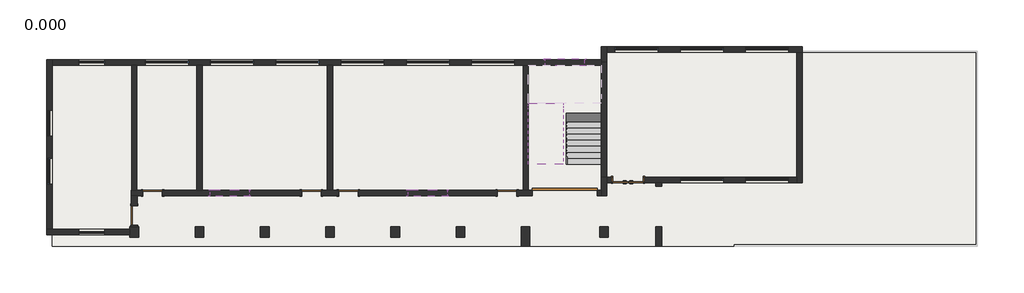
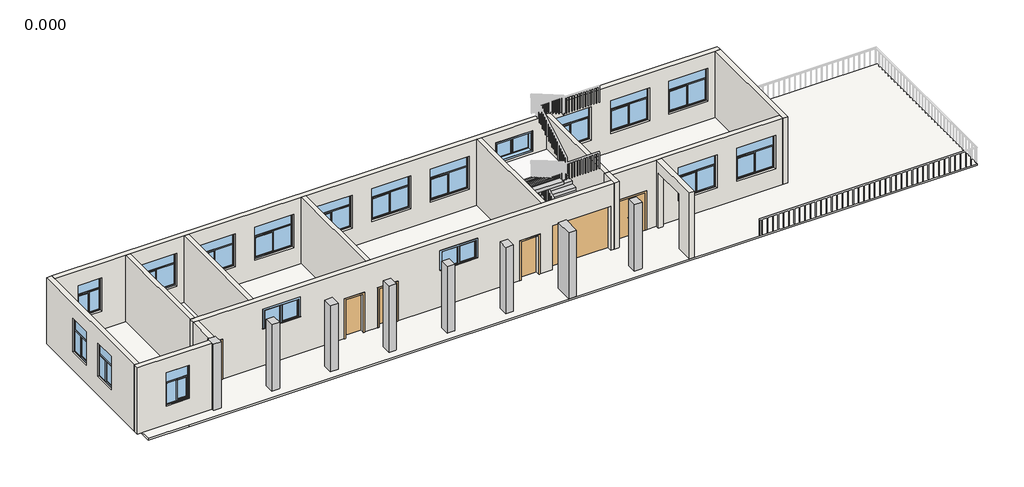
# One storey, part 1 of 3: 18 windows, 16 walls, 8 columns, 7 doors, 2 stair flights, 1 slab.
"""IFC4 building model written with IfcOpenShell, lengths in millimetres."""

from ifc_helpers import new_model, si_unit, frame, origin, origin_with_axes, place, context, project, spatial, polyline, outline, extrude, faceted_brep, transform, mapped, element, save
from components import column_400x500mm_c44cc8ed, column_400x900mm_74237744, m1_f3cb3123, m1_ab81c9c2, m2_54796214, m3_c4b16c2e, c1_54542c8d, c2_93fe3833, c3_c6347dd0

model = new_model("IFC4")

# Units and contexts
model_context = context("Model", 3, world=origin())
ifc_project = project(units=[si_unit("LENGTHUNIT", "METRE", prefix="MILLI")], contexts=[model_context])

# Site, building, storey
site = spatial("IfcSite", under=ifc_project)
building = spatial("IfcBuilding", under=site)
storey = spatial("IfcBuildingStorey", under=building, Name="0.000", Elevation=0.0)

# Columns
placement = place(None, origin())
element("IfcColumn", 1, ObjectType="混凝土 - 矩形 - 柱 : 400X500mm", at=placement, inside=storey, context=model_context, shape_type="Brep", body=[
    faceted_brep([(-19259.1214542, -25688.2373497, 0.0), (-19259.1214542, -26188.2373497, 0.0), (-19659.1214542, -26188.2373497, 0.0), (-19659.1214542, -26068.2373497, 0.0), (-19659.1214542, -25808.2373497, 0.0), (-19659.1214542, -25688.2373497, 0.0), (-19589.1214542, -25688.2373497, 0.0), (-19329.1214542, -25688.2373497, 0.0), (-19259.1214542, -25688.2373497, 3600.0), (-19259.1214542, -26188.2373497, 3600.0), (-19659.1214542, -26188.2373497, 3600.0), (-19659.1214542, -26068.2373497, 3600.0), (-19659.1214542, -25808.2373497, 3600.0), (-19659.1214542, -25688.2373497, 3600.0), (-19589.1214542, -25688.2373497, 3600.0), (-19329.1214542, -25688.2373497, 3600.0)], [[[0, 1, 2, 3, 4, 5, 6, 7]], [[8, 9, 1, 0]], [[9, 10, 2, 1]], [[10, 11, 12, 13, 5, 4, 3, 2]], [[13, 14, 15, 8, 0, 7, 6, 5]], [[8, 15, 14, 13, 12, 11, 10, 9]]]),
])
column_400x500mm_shape = column_400x500mm_c44cc8ed(model_context)
element("IfcColumn", 2, ObjectType="混凝土 - 矩形 - 柱 : 400X500mm", at=placement, inside=storey, context=model_context, shape_type="MappedRepresentation", body=[
    mapped(column_400x500mm_shape, transform((-16459.1214542, -25938.2373497, 0.0), x_axis=(1.0, 0.0, 0.0), y_axis=(0.0, 1.0, 0.0), z_axis=(0.0, 0.0, 1.0))),
])
element("IfcColumn", 3, ObjectType="混凝土 - 矩形 - 柱 : 400X500mm", at=placement, inside=storey, context=model_context, shape_type="MappedRepresentation", body=[
    mapped(column_400x500mm_shape, transform((-13459.1214542, -25938.2373497, 0.0), x_axis=(1.0, 0.0, 0.0), y_axis=(0.0, 1.0, 0.0), z_axis=(0.0, 0.0, 1.0))),
])
element("IfcColumn", 4, ObjectType="混凝土 - 矩形 - 柱 : 400X500mm", at=placement, inside=storey, context=model_context, shape_type="MappedRepresentation", body=[
    mapped(column_400x500mm_shape, transform((-10459.1214542, -25938.2373497, 0.0), x_axis=(1.0, 0.0, 0.0), y_axis=(0.0, 1.0, 0.0), z_axis=(0.0, 0.0, 1.0))),
])
element("IfcColumn", 5, ObjectType="混凝土 - 矩形 - 柱 : 400X500mm", at=placement, inside=storey, context=model_context, shape_type="MappedRepresentation", body=[
    mapped(column_400x500mm_shape, transform((-7459.1214542, -25938.2373497, 0.0), x_axis=(1.0, 0.0, 0.0), y_axis=(0.0, 1.0, 0.0), z_axis=(0.0, 0.0, 1.0))),
])
element("IfcColumn", 6, ObjectType="混凝土 - 矩形 - 柱 : 400X500mm", at=placement, inside=storey, context=model_context, shape_type="MappedRepresentation", body=[
    mapped(column_400x500mm_shape, transform((-4459.1214542, -25938.2373497, 0.0), x_axis=(1.0, 0.0, 0.0), y_axis=(0.0, 1.0, 0.0), z_axis=(0.0, 0.0, 1.0))),
])
element("IfcColumn", 7, ObjectType="混凝土 - 矩形 - 柱 : 400X500mm", at=placement, inside=storey, context=model_context, shape_type="MappedRepresentation", body=[
    mapped(column_400x500mm_shape, transform((2140.8785458, -25938.2373497, 0.0), x_axis=(1.0, 0.0, 0.0), y_axis=(0.0, 1.0, 0.0), z_axis=(0.0, 0.0, 1.0))),
])
column_400x900mm_shape = column_400x900mm_74237744(model_context)
element("IfcColumn", 8, ObjectType="混凝土 - 矩形 - 柱 : 400X900mm", at=placement, inside=storey, context=model_context, shape_type="MappedRepresentation", body=[
    mapped(column_400x900mm_shape, transform((-1459.1214542, -26138.2373497, 0.0), x_axis=(1.0, 0.0, 0.0), y_axis=(0.0, 1.0, 0.0), z_axis=(0.0, 0.0, 1.0))),
])

# Doors
m1_shape = m1_f3cb3123(model_context)
element("IfcDoor", 9, ObjectType="单扇 - 与墙齐 : M1", at=placement, inside=storey, context=model_context, shape_type="MappedRepresentation", body=[
    mapped(m1_shape, transform((-18609.1214542, -24138.2373497, 0.0), x_axis=(-1.0, 0.0, 0.0), y_axis=(0.0, -1.0, 0.0), z_axis=(0.0, 0.0, 1.0))),
])
element("IfcDoor", 10, ObjectType="单扇 - 与墙齐 : M1", at=placement, inside=storey, context=model_context, shape_type="MappedRepresentation", body=[
    mapped(m1_shape, transform((-9609.1214542, -24138.2373497, 0.0), x_axis=(-1.0, 0.0, 0.0), y_axis=(0.0, -1.0, 0.0), z_axis=(0.0, 0.0, 1.0))),
])
element("IfcDoor", 11, ObjectType="单扇 - 与墙齐 : M1", at=placement, inside=storey, context=model_context, shape_type="MappedRepresentation", body=[
    mapped(m1_shape, transform((-19459.1214542, -25168.2373497, 0.0), x_axis=(0.0, -1.0, 0.0), y_axis=(1.0, 0.0, 0.0), z_axis=(0.0, 0.0, 1.0))),
])
m1_2_shape = m1_ab81c9c2(model_context)
element("IfcDoor", 12, ObjectType="单扇 - 与墙齐 : M1", at=placement, inside=storey, context=model_context, shape_type="MappedRepresentation", body=[
    mapped(m1_2_shape, transform((-11309.1214542, -24138.2373497, 0.0), x_axis=(1.0, 0.0, 0.0), y_axis=(0.0, 1.0, 0.0), z_axis=(0.0, 0.0, 1.0))),
])
element("IfcDoor", 13, ObjectType="单扇 - 与墙齐 : M1", at=placement, inside=storey, context=model_context, shape_type="MappedRepresentation", body=[
    mapped(m1_2_shape, transform((-2309.1214542, -24138.2373497, 0.0), x_axis=(1.0, 0.0, 0.0), y_axis=(0.0, 1.0, 0.0), z_axis=(0.0, 0.0, 1.0))),
])
m2_shape = m2_54796214(model_context)
element("IfcDoor", 14, ObjectType="双面嵌板木门 1 : M2", at=placement, inside=storey, context=model_context, shape_type="MappedRepresentation", body=[
    mapped(m2_shape, transform((3250.8785458, -23538.2373497, 0.0), x_axis=(-1.0, 0.0, 0.0), y_axis=(0.0, -1.0, 0.0), z_axis=(0.0, 0.0, 1.0))),
])
m3_shape = m3_c4b16c2e(model_context)
element("IfcDoor", 15, ObjectType="滑升门 : M3", at=placement, inside=storey, context=model_context, shape_type="MappedRepresentation", body=[
    mapped(m3_shape, transform((340.8785458, -24138.2373497, 0.0), x_axis=(-1.0, 0.0, 0.0), y_axis=(0.0, -1.0, 0.0), z_axis=(0.0, 0.0, 1.0))),
])

# Slab
element("IfcSlab", 16, ObjectType="室内楼板", at=placement, inside=storey, context=model_context, shape_type="SweptSolid", body=[
    extrude(outline(polyline([(2020.8785458, -18268.2373497), (2270.8785458, -18268.2373497), (2270.8785458, -17668.2373497), (19315.8785458, -17668.2373497), (19315.8785458, -26588.2373497), (-21129.1214542, -26588.2373497), (-23229.1214542, -26588.2373497), (-23229.1214542, -25808.2373497), (-23229.1214542, -18268.2373497), (2020.8785458, -18268.2373497)])), frame((0.0, 0.0, -100.0), z_axis=(0.0, 0.0, 1.0), x_axis=(1.0, 0.0, 0.0)), (0.0, 0.0, 1.0), 100.0),
])

# Stair flights
element("IfcStairFlight", 17, ObjectType="150mm 结构深度", at=placement, inside=storey, context=model_context, shape_type="Brep", body=[
    faceted_brep([(405.8785458, -22538.2373497, 163.6363636), (405.8785458, -22818.2373497, 163.6363636), (2020.8785458, -22818.2373497, 163.6363636), (2020.8785458, -22538.2373497, 163.6363636), (405.8785458, -22538.2373497, 0.0), (405.8785458, -22818.2373497, 0.0), (2020.8785458, -22818.2373497, 0.0), (2020.8785458, -22538.2373497, 0.0), (405.8785458, -22258.2373497, 327.2727273), (405.8785458, -22538.2373497, 327.2727273), (2020.8785458, -22538.2373497, 327.2727273), (2020.8785458, -22258.2373497, 327.2727273), (405.8785458, -22258.2373497, 153.5353236), (405.8785458, -22520.9533478, 0.0), (2020.8785458, -22520.9533478, 0.0), (2020.8785458, -22258.2373497, 153.5353236), (405.8785458, -21978.2373497, 490.9090909), (405.8785458, -22258.2373497, 490.9090909), (2020.8785458, -22258.2373497, 490.9090909), (2020.8785458, -21978.2373497, 490.9090909), (405.8785458, -21978.2373497, 317.1716872), (2020.8785458, -21978.2373497, 317.1716872), (405.8785458, -21698.2373497, 654.5454545), (405.8785458, -21978.2373497, 654.5454545), (2020.8785458, -21978.2373497, 654.5454545), (2020.8785458, -21698.2373497, 654.5454545), (405.8785458, -21698.2373497, 480.8080508), (2020.8785458, -21698.2373497, 480.8080508), (405.8785458, -21418.2373497, 818.1818182), (405.8785458, -21698.2373497, 818.1818182), (2020.8785458, -21698.2373497, 818.1818182), (2020.8785458, -21418.2373497, 818.1818182), (405.8785458, -21418.2373497, 644.4444145), (2020.8785458, -21418.2373497, 644.4444145), (405.8785458, -21138.2373497, 981.8181818), (405.8785458, -21418.2373497, 981.8181818), (2020.8785458, -21418.2373497, 981.8181818), (2020.8785458, -21138.2373497, 981.8181818), (405.8785458, -21138.2373497, 808.0807781), (2020.8785458, -21138.2373497, 808.0807781), (405.8785458, -20858.2373497, 1145.4545455), (405.8785458, -21138.2373497, 1145.4545455), (2020.8785458, -21138.2373497, 1145.4545455), (2020.8785458, -20858.2373497, 1145.4545455), (405.8785458, -20858.2373497, 971.7171418), (2020.8785458, -20858.2373497, 971.7171418), (405.8785458, -20578.2373497, 1309.0909091), (405.8785458, -20858.2373497, 1309.0909091), (2020.8785458, -20858.2373497, 1309.0909091), (2020.8785458, -20578.2373497, 1309.0909091), (405.8785458, -20578.2373497, 1135.3535054), (2020.8785458, -20578.2373497, 1135.3535054), (405.8785458, -20298.2373497, 1472.7272727), (405.8785458, -20578.2373497, 1472.7272727), (2020.8785458, -20578.2373497, 1472.7272727), (2020.8785458, -20298.2373497, 1472.7272727), (405.8785458, -20298.2373497, 1298.989869), (2020.8785458, -20298.2373497, 1298.989869), (405.8785458, -20018.2373497, 1636.3636364), (405.8785458, -20298.2373497, 1636.3636364), (2020.8785458, -20298.2373497, 1636.3636364), (2020.8785458, -20018.2373497, 1636.3636364), (405.8785458, -20018.2373497, 1462.6262327), (2020.8785458, -20018.2373497, 1462.6262327)], [[[0, 1, 2, 3]], [[1, 0, 4, 5]], [[2, 1, 5, 6]], [[3, 2, 6, 7]], [[8, 9, 10, 11]], [[4, 0, 9, 8, 12, 13]], [[0, 3, 10, 9]], [[3, 7, 14, 15, 11, 10]], [[16, 17, 18, 19]], [[17, 16, 20, 12, 8]], [[8, 11, 18, 17]], [[19, 18, 11, 15, 21]], [[22, 23, 24, 25]], [[23, 22, 26, 20, 16]], [[16, 19, 24, 23]], [[25, 24, 19, 21, 27]], [[28, 29, 30, 31]], [[29, 28, 32, 26, 22]], [[22, 25, 30, 29]], [[31, 30, 25, 27, 33]], [[34, 35, 36, 37]], [[35, 34, 38, 32, 28]], [[28, 31, 36, 35]], [[37, 36, 31, 33, 39]], [[40, 41, 42, 43]], [[41, 40, 44, 38, 34]], [[34, 37, 42, 41]], [[43, 42, 37, 39, 45]], [[46, 47, 48, 49]], [[47, 46, 50, 44, 40]], [[40, 43, 48, 47]], [[49, 48, 43, 45, 51]], [[52, 53, 54, 55]], [[53, 52, 56, 50, 46]], [[46, 49, 54, 53]], [[55, 54, 49, 51, 57]], [[58, 59, 60, 61]], [[59, 58, 62, 56, 52]], [[52, 55, 60, 59]], [[61, 60, 55, 57, 63]], [[58, 61, 63, 62]], [[5, 4, 13, 14, 7, 6]], [[14, 13, 12, 20, 26, 32, 38, 44, 50, 56, 62, 63, 57, 51, 45, 39, 33, 27, 21, 15]]]),
])
element("IfcStairFlight", 18, ObjectType="150mm 结构深度", at=placement, inside=storey, context=model_context, shape_type="Brep", body=[
    faceted_brep([(275.8785458, -20018.2373497, 1963.6363636), (-1339.1214542, -20018.2373497, 1963.6363636), (-1339.1214542, -20144.4102404, 1963.6363636), (-1339.1214542, -20298.2373497, 1963.6363636), (275.8785458, -20298.2373497, 1963.6363636), (275.8785458, -20144.4102404, 1963.6363636), (275.8785458, -20298.2373497, 1789.8989599), (275.8785458, -20144.4102404, 1700.0), (275.8785458, -20018.2373497, 1700.0), (-1339.1214542, -20018.2373497, 1700.0), (-1339.1214542, -20018.2373497, 1800.0), (-1339.1214542, -20144.4102404, 1700.0), (-1339.1214542, -20298.2373497, 1789.8989599), (275.8785458, -20578.2373497, 2127.2727273), (275.8785458, -20298.2373497, 2127.2727273), (-1339.1214542, -20298.2373497, 2127.2727273), (-1339.1214542, -20578.2373497, 2127.2727273), (275.8785458, -20578.2373497, 1953.5353236), (-1339.1214542, -20578.2373497, 1953.5353236), (275.8785458, -20858.2373497, 2290.9090909), (275.8785458, -20578.2373497, 2290.9090909), (-1339.1214542, -20578.2373497, 2290.9090909), (-1339.1214542, -20858.2373497, 2290.9090909), (275.8785458, -20858.2373497, 2117.1716872), (-1339.1214542, -20858.2373497, 2117.1716872), (275.8785458, -21138.2373497, 2454.5454545), (275.8785458, -20858.2373497, 2454.5454545), (-1339.1214542, -20858.2373497, 2454.5454545), (-1339.1214542, -21138.2373497, 2454.5454545), (275.8785458, -21138.2373497, 2280.8080508), (-1339.1214542, -21138.2373497, 2280.8080508), (275.8785458, -21418.2373497, 2618.1818182), (275.8785458, -21138.2373497, 2618.1818182), (-1339.1214542, -21138.2373497, 2618.1818182), (-1339.1214542, -21418.2373497, 2618.1818182), (275.8785458, -21418.2373497, 2444.4444145), (-1339.1214542, -21418.2373497, 2444.4444145), (275.8785458, -21698.2373497, 2781.8181818), (275.8785458, -21418.2373497, 2781.8181818), (-1339.1214542, -21418.2373497, 2781.8181818), (-1339.1214542, -21698.2373497, 2781.8181818), (275.8785458, -21698.2373497, 2608.0807781), (-1339.1214542, -21698.2373497, 2608.0807781), (275.8785458, -21978.2373497, 2945.4545455), (275.8785458, -21698.2373497, 2945.4545455), (-1339.1214542, -21698.2373497, 2945.4545455), (-1339.1214542, -21978.2373497, 2945.4545455), (275.8785458, -21978.2373497, 2771.7171418), (-1339.1214542, -21978.2373497, 2771.7171418), (275.8785458, -22258.2373497, 3109.0909091), (275.8785458, -21978.2373497, 3109.0909091), (-1339.1214542, -21978.2373497, 3109.0909091), (-1339.1214542, -22258.2373497, 3109.0909091), (275.8785458, -22258.2373497, 2935.3535054), (-1339.1214542, -22258.2373497, 2935.3535054), (275.8785458, -22538.2373497, 3272.7272727), (275.8785458, -22258.2373497, 3272.7272727), (-1339.1214542, -22258.2373497, 3272.7272727), (-1339.1214542, -22538.2373497, 3272.7272727), (275.8785458, -22538.2373497, 3098.989869), (-1339.1214542, -22538.2373497, 3098.989869), (275.8785458, -22818.2373497, 3436.3636364), (275.8785458, -22538.2373497, 3436.3636364), (-1339.1214542, -22538.2373497, 3436.3636364), (-1339.1214542, -22818.2373497, 3436.3636364), (275.8785458, -22818.2373497, 3262.6262327), (-1339.1214542, -22818.2373497, 3262.6262327)], [[[0, 1, 2, 3, 4, 5]], [[4, 6, 7, 8, 0, 5]], [[1, 0, 8, 9, 10]], [[1, 10, 9, 11, 12, 3, 2]], [[13, 14, 15, 16]], [[14, 13, 17, 6, 4]], [[15, 14, 4, 3]], [[16, 15, 3, 12, 18]], [[19, 20, 21, 22]], [[20, 19, 23, 17, 13]], [[21, 20, 13, 16]], [[22, 21, 16, 18, 24]], [[25, 26, 27, 28]], [[26, 25, 29, 23, 19]], [[27, 26, 19, 22]], [[28, 27, 22, 24, 30]], [[31, 32, 33, 34]], [[32, 31, 35, 29, 25]], [[33, 32, 25, 28]], [[34, 33, 28, 30, 36]], [[37, 38, 39, 40]], [[38, 37, 41, 35, 31]], [[39, 38, 31, 34]], [[40, 39, 34, 36, 42]], [[43, 44, 45, 46]], [[44, 43, 47, 41, 37]], [[45, 44, 37, 40]], [[46, 45, 40, 42, 48]], [[49, 50, 51, 52]], [[50, 49, 53, 47, 43]], [[51, 50, 43, 46]], [[52, 51, 46, 48, 54]], [[55, 56, 57, 58]], [[56, 55, 59, 53, 49]], [[57, 56, 49, 52]], [[58, 57, 52, 54, 60]], [[61, 62, 63, 64]], [[62, 61, 65, 59, 55]], [[63, 62, 55, 58]], [[64, 63, 58, 60, 66]], [[61, 64, 66, 65]], [[11, 7, 6, 17, 23, 29, 35, 41, 47, 53, 59, 65, 66, 60, 54, 48, 42, 36, 30, 24, 18, 12]], [[7, 11, 9, 8]]]),
])

# Walls
element("IfcWall", 19, ObjectType="外墙", at=placement, inside=storey, context=model_context, shape_type="Brep", body=[
    faceted_brep([(-23489.1214542, -25808.2373497, 0.0), (-23489.1214542, -25808.2373497, 3600.0), (-23229.1214542, -25808.2373497, 3600.0), (-19659.1214542, -25808.2373497, 3600.0), (-19659.1214542, -25808.2373497, 0.0), (-23229.1214542, -25808.2373497, 0.0), (-20809.1214542, -25808.2373497, 1000.0), (-20809.1214542, -25808.2373497, 2800.0), (-22009.1214542, -25808.2373497, 2800.0), (-22009.1214542, -25808.2373497, 1000.0), (-23489.1214542, -26068.2373497, 3600.0), (-23489.1214542, -26068.2373497, 0.0), (-19659.1214542, -26068.2373497, 0.0), (-19659.1214542, -26068.2373497, 3600.0), (-20809.1214542, -26068.2373497, 2800.0), (-20809.1214542, -26068.2373497, 1000.0), (-22009.1214542, -26068.2373497, 1000.0), (-22009.1214542, -26068.2373497, 2800.0)], [[[0, 1, 2, 3, 4, 5], [6, 7, 8, 9]], [[10, 11, 12, 13], [14, 15, 16, 17]], [[11, 0, 5, 4, 12]], [[1, 10, 13, 3, 2]], [[1, 0, 11, 10]], [[4, 3, 13, 12]], [[7, 6, 15, 14]], [[8, 7, 14, 17]], [[9, 8, 17, 16]], [[6, 9, 16, 15]]]),
])
element("IfcWall", 20, ObjectType="外墙", at=placement, inside=storey, context=model_context, shape_type="Brep", body=[
    faceted_brep([(-23229.1214542, -25808.2373497, 0.0), (-23229.1214542, -18268.2373497, 0.0), (-23229.1214542, -18008.2373497, 0.0), (-23229.1214542, -18008.2373497, 3600.0), (-23229.1214542, -18268.2373497, 3600.0), (-23229.1214542, -25808.2373497, 3600.0), (-23229.1214542, -21538.2373497, 1000.0), (-23229.1214542, -21538.2373497, 2800.0), (-23229.1214542, -20338.2373497, 2800.0), (-23229.1214542, -20338.2373497, 1000.0), (-23229.1214542, -23738.2373497, 1000.0), (-23229.1214542, -23738.2373497, 2800.0), (-23229.1214542, -22538.2373497, 2800.0), (-23229.1214542, -22538.2373497, 1000.0), (-23489.1214542, -25808.2373497, 0.0), (-23489.1214542, -25808.2373497, 3600.0), (-23489.1214542, -18008.2373497, 3600.0), (-23489.1214542, -18008.2373497, 0.0), (-23489.1214542, -21538.2373497, 1000.0), (-23489.1214542, -20338.2373497, 1000.0), (-23489.1214542, -20338.2373497, 2800.0), (-23489.1214542, -21538.2373497, 2800.0), (-23489.1214542, -23738.2373497, 1000.0), (-23489.1214542, -22538.2373497, 1000.0), (-23489.1214542, -22538.2373497, 2800.0), (-23489.1214542, -23738.2373497, 2800.0)], [[[0, 1, 2, 3, 4, 5], [6, 7, 8, 9], [10, 11, 12, 13]], [[14, 15, 16, 17], [18, 19, 20, 21], [22, 23, 24, 25]], [[2, 1, 0, 14, 17]], [[5, 4, 3, 16, 15]], [[0, 5, 15, 14]], [[3, 2, 17, 16]], [[7, 6, 18, 21]], [[8, 7, 21, 20]], [[9, 8, 20, 19]], [[6, 9, 19, 18]], [[11, 10, 22, 25]], [[12, 11, 25, 24]], [[13, 12, 24, 23]], [[10, 13, 23, 22]]]),
])
element("IfcWall", 21, ObjectType="外墙", at=placement, inside=storey, context=model_context, shape_type="Brep", body=[
    faceted_brep([(-23229.1214542, -18268.2373497, 0.0), (-19579.1214542, -18268.2373497, 0.0), (-19339.1214542, -18268.2373497, 0.0), (-16579.1214542, -18268.2373497, 0.0), (-16339.1214542, -18268.2373497, 0.0), (-10579.1214542, -18268.2373497, 0.0), (-10339.1214542, -18268.2373497, 0.0), (-1579.1214542, -18268.2373497, 0.0), (-1339.1214542, -18268.2373497, 0.0), (2020.8785458, -18268.2373497, 0.0), (2020.8785458, -18268.2373497, 3600.0), (-1339.1214542, -18268.2373497, 3600.0), (-1579.1214542, -18268.2373497, 3600.0), (-10339.1214542, -18268.2373497, 3600.0), (-10579.1214542, -18268.2373497, 3600.0), (-16339.1214542, -18268.2373497, 3600.0), (-16579.1214542, -18268.2373497, 3600.0), (-19339.1214542, -18268.2373497, 3600.0), (-19579.1214542, -18268.2373497, 3600.0), (-23229.1214542, -18268.2373497, 3600.0), (-22009.1214542, -18268.2373497, 1000.0), (-22009.1214542, -18268.2373497, 2800.0), (-20809.1214542, -18268.2373497, 2800.0), (-20809.1214542, -18268.2373497, 1000.0), (-18959.1214542, -18268.2373497, 1000.0), (-18959.1214542, -18268.2373497, 2800.0), (-16959.1214542, -18268.2373497, 2800.0), (-16959.1214542, -18268.2373497, 1000.0), (-15959.1214542, -18268.2373497, 1000.0), (-15959.1214542, -18268.2373497, 2800.0), (-13959.1214542, -18268.2373497, 2800.0), (-13959.1214542, -18268.2373497, 1000.0), (-12959.1214542, -18268.2373497, 1000.0), (-12959.1214542, -18268.2373497, 2800.0), (-10959.1214542, -18268.2373497, 2800.0), (-10959.1214542, -18268.2373497, 1000.0), (-9959.1214542, -18268.2373497, 1000.0), (-9959.1214542, -18268.2373497, 2800.0), (-7959.1214542, -18268.2373497, 2800.0), (-7959.1214542, -18268.2373497, 1000.0), (-6959.1214542, -18268.2373497, 1000.0), (-6959.1214542, -18268.2373497, 2800.0), (-4959.1214542, -18268.2373497, 2800.0), (-4959.1214542, -18268.2373497, 1000.0), (-3959.1214542, -18268.2373497, 1000.0), (-3959.1214542, -18268.2373497, 2800.0), (-1959.1214542, -18268.2373497, 2800.0), (-1959.1214542, -18268.2373497, 1000.0), (1240.8785458, -18268.2373497, 3000.0), (1240.8785458, -18268.2373497, 2000.0), (-559.1214542, -18268.2373497, 2000.0), (-559.1214542, -18268.2373497, 3000.0), (-23229.1214542, -18008.2373497, 0.0), (-23229.1214542, -18008.2373497, 3600.0), (2010.8785458, -18008.2373497, 3600.0), (2010.8785458, -18008.2373497, 0.0), (-22009.1214542, -18008.2373497, 1000.0), (-20809.1214542, -18008.2373497, 1000.0), (-20809.1214542, -18008.2373497, 2800.0), (-22009.1214542, -18008.2373497, 2800.0), (-18959.1214542, -18008.2373497, 1000.0), (-16959.1214542, -18008.2373497, 1000.0), (-16959.1214542, -18008.2373497, 2800.0), (-18959.1214542, -18008.2373497, 2800.0), (-15959.1214542, -18008.2373497, 1000.0), (-13959.1214542, -18008.2373497, 1000.0), (-13959.1214542, -18008.2373497, 2800.0), (-15959.1214542, -18008.2373497, 2800.0), (-12959.1214542, -18008.2373497, 1000.0), (-10959.1214542, -18008.2373497, 1000.0), (-10959.1214542, -18008.2373497, 2800.0), (-12959.1214542, -18008.2373497, 2800.0), (-9959.1214542, -18008.2373497, 1000.0), (-7959.1214542, -18008.2373497, 1000.0), (-7959.1214542, -18008.2373497, 2800.0), (-9959.1214542, -18008.2373497, 2800.0), (-6959.1214542, -18008.2373497, 1000.0), (-4959.1214542, -18008.2373497, 1000.0), (-4959.1214542, -18008.2373497, 2800.0), (-6959.1214542, -18008.2373497, 2800.0), (-3959.1214542, -18008.2373497, 1000.0), (-1959.1214542, -18008.2373497, 1000.0), (-1959.1214542, -18008.2373497, 2800.0), (-3959.1214542, -18008.2373497, 2800.0), (1240.8785458, -18008.2373497, 3000.0), (-559.1214542, -18008.2373497, 3000.0), (-559.1214542, -18008.2373497, 2000.0), (1240.8785458, -18008.2373497, 2000.0), (2010.8785458, -18138.2373497, 0.0), (2020.8785458, -18138.2373497, 0.0), (2020.8785458, -18138.2373497, 3600.0), (2010.8785458, -18138.2373497, 3600.0)], [[[0, 1, 2, 3, 4, 5, 6, 7, 8, 9, 10, 11, 12, 13, 14, 15, 16, 17, 18, 19], [20, 21, 22, 23], [24, 25, 26, 27], [28, 29, 30, 31], [32, 33, 34, 35], [36, 37, 38, 39], [40, 41, 42, 43], [44, 45, 46, 47], [48, 49, 50, 51]], [[52, 53, 54, 55], [56, 57, 58, 59], [60, 61, 62, 63], [64, 65, 66, 67], [68, 69, 70, 71], [72, 73, 74, 75], [76, 77, 78, 79], [80, 81, 82, 83], [84, 85, 86, 87]], [[9, 8, 7, 6, 5, 4, 3, 2, 1, 0, 52, 55, 88, 89]], [[19, 18, 17, 16, 15, 14, 13, 12, 11, 10, 90, 91, 54, 53]], [[0, 19, 53, 52]], [[10, 9, 89, 90]], [[89, 88, 91, 90]], [[88, 55, 54, 91]], [[21, 20, 56, 59]], [[22, 21, 59, 58]], [[23, 22, 58, 57]], [[20, 23, 57, 56]], [[25, 24, 60, 63]], [[26, 25, 63, 62]], [[27, 26, 62, 61]], [[24, 27, 61, 60]], [[29, 28, 64, 67]], [[30, 29, 67, 66]], [[31, 30, 66, 65]], [[28, 31, 65, 64]], [[33, 32, 68, 71]], [[34, 33, 71, 70]], [[35, 34, 70, 69]], [[32, 35, 69, 68]], [[37, 36, 72, 75]], [[38, 37, 75, 74]], [[39, 38, 74, 73]], [[36, 39, 73, 72]], [[41, 40, 76, 79]], [[42, 41, 79, 78]], [[43, 42, 78, 77]], [[40, 43, 77, 76]], [[45, 44, 80, 83]], [[46, 45, 83, 82]], [[47, 46, 82, 81]], [[44, 47, 81, 80]], [[49, 48, 84, 87]], [[50, 49, 87, 86]], [[51, 50, 86, 85]], [[48, 51, 85, 84]]]),
])
element("IfcWall", 22, ObjectType="外墙", at=placement, inside=storey, context=model_context, shape_type="Brep", body=[
    faceted_brep([(11010.8785458, -17668.2373497, 0.0), (11010.8785458, -23408.2373497, 0.0), (11010.8785458, -23668.2373497, 0.0), (11010.8785458, -23668.2373497, 3600.0), (11010.8785458, -23408.2373497, 3600.0), (11010.8785458, -17668.2373497, 3600.0), (11270.8785458, -17668.2373497, 0.0), (11270.8785458, -17668.2373497, 3600.0), (11270.8785458, -23668.2373497, 3600.0), (11270.8785458, -23668.2373497, 0.0)], [[[0, 1, 2, 3, 4, 5]], [[6, 7, 8, 9]], [[2, 1, 0, 6, 9]], [[5, 4, 3, 8, 7]], [[3, 2, 9, 8]], [[0, 5, 7, 6]]]),
])
element("IfcWall", 23, ObjectType="外墙", at=placement, inside=storey, context=model_context, shape_type="Brep", body=[
    faceted_brep([(2270.8785458, -23408.2373497, 3600.0), (11010.8785458, -23408.2373497, 3600.0), (11010.8785458, -23408.2373497, 0.0), (4000.8785458, -23408.2373497, 0.0), (4000.8785458, -23408.2373497, 2100.0), (2500.8785458, -23408.2373497, 2100.0), (2500.8785458, -23408.2373497, 0.0), (2270.8785458, -23408.2373497, 0.0), (8640.8785458, -23408.2373497, 1000.0), (10640.8785458, -23408.2373497, 1000.0), (10640.8785458, -23408.2373497, 2800.0), (8640.8785458, -23408.2373497, 2800.0), (5640.8785458, -23408.2373497, 1000.0), (7640.8785458, -23408.2373497, 1000.0), (7640.8785458, -23408.2373497, 2800.0), (5640.8785458, -23408.2373497, 2800.0), (11010.8785458, -23668.2373497, 3600.0), (4790.8785458, -23668.2373497, 3600.0), (4530.8785458, -23668.2373497, 3600.0), (2270.8785458, -23668.2373497, 3600.0), (2270.8785458, -23668.2373497, 0.0), (2500.8785458, -23668.2373497, 0.0), (2500.8785458, -23668.2373497, 2100.0), (4000.8785458, -23668.2373497, 2100.0), (4000.8785458, -23668.2373497, 0.0), (4530.8785458, -23668.2373497, 0.0), (4790.8785458, -23668.2373497, 0.0), (11010.8785458, -23668.2373497, 0.0), (8640.8785458, -23668.2373497, 1000.0), (8640.8785458, -23668.2373497, 2800.0), (10640.8785458, -23668.2373497, 2800.0), (10640.8785458, -23668.2373497, 1000.0), (5640.8785458, -23668.2373497, 1000.0), (5640.8785458, -23668.2373497, 2800.0), (7640.8785458, -23668.2373497, 2800.0), (7640.8785458, -23668.2373497, 1000.0)], [[[0, 1, 2, 3, 4, 5, 6, 7], [8, 9, 10, 11], [12, 13, 14, 15]], [[16, 17, 18, 19, 20, 21, 22, 23, 24, 25, 26, 27], [28, 29, 30, 31], [32, 33, 34, 35]], [[2, 27, 26, 25, 24, 3]], [[20, 7, 6, 21]], [[1, 0, 19, 18, 17, 16]], [[2, 1, 16, 27]], [[0, 7, 20, 19]], [[5, 22, 21, 6]], [[22, 5, 4, 23]], [[23, 4, 3, 24]], [[29, 28, 8, 11]], [[30, 29, 11, 10]], [[31, 30, 10, 9]], [[28, 31, 9, 8]], [[33, 32, 12, 15]], [[34, 33, 15, 14]], [[35, 34, 14, 13]], [[32, 35, 13, 12]]]),
])
element("IfcWall", 24, ObjectType="外墙", at=placement, inside=storey, context=model_context, shape_type="Brep", body=[
    faceted_brep([(2010.8785458, -23408.2373497, 0.0), (2010.8785458, -24008.2373497, 0.0), (2010.8785458, -24268.2373497, 0.0), (2010.8785458, -24268.2373497, 3600.0), (2010.8785458, -24008.2373497, 3600.0), (2010.8785458, -23408.2373497, 3600.0), (2270.8785458, -23408.2373497, 0.0), (2270.8785458, -23408.2373497, 3600.0), (2270.8785458, -23668.2373497, 3600.0), (2270.8785458, -24268.2373497, 3600.0), (2270.8785458, -24268.2373497, 0.0), (2270.8785458, -23668.2373497, 0.0), (2020.8785458, -23408.2373497, 0.0), (2260.8785458, -23408.2373497, 0.0), (2260.8785458, -23408.2373497, 3600.0), (2020.8785458, -23408.2373497, 3600.0)], [[[0, 1, 2, 3, 4, 5]], [[6, 7, 8, 9, 10, 11]], [[2, 1, 0, 12, 13, 6, 11, 10]], [[5, 4, 3, 9, 8, 7, 14, 15]], [[0, 5, 15, 14, 7, 6, 13, 12]], [[3, 2, 10, 9]]]),
])
element("IfcWall", 25, ObjectType="外墙", at=placement, inside=storey, context=model_context, shape_type="Brep", body=[
    faceted_brep([(-19589.1214542, -24008.2373497, 3600.0), (-19579.1214542, -24008.2373497, 3600.0), (-19339.1214542, -24008.2373497, 3600.0), (-16579.1214542, -24008.2373497, 3600.0), (-16339.1214542, -24008.2373497, 3600.0), (-10579.1214542, -24008.2373497, 3600.0), (-10339.1214542, -24008.2373497, 3600.0), (-1579.1214542, -24008.2373497, 3600.0), (-1339.1214542, -24008.2373497, 3600.0), (2010.8785458, -24008.2373497, 3600.0), (2010.8785458, -24008.2373497, 0.0), (1840.8785458, -24008.2373497, 0.0), (1840.8785458, -24008.2373497, 2400.0), (-1159.1214542, -24008.2373497, 2400.0), (-1159.1214542, -24008.2373497, 0.0), (-1339.1214542, -24008.2373497, 0.0), (-1579.1214542, -24008.2373497, 0.0), (-1859.1214542, -24008.2373497, 0.0), (-1859.1214542, -24008.2373497, 2100.0), (-2759.1214542, -24008.2373497, 2100.0), (-2759.1214542, -24008.2373497, 0.0), (-9159.1214542, -24008.2373497, 0.0), (-9159.1214542, -24008.2373497, 2100.0), (-10059.1214542, -24008.2373497, 2100.0), (-10059.1214542, -24008.2373497, 0.0), (-10339.1214542, -24008.2373497, 0.0), (-10579.1214542, -24008.2373497, 0.0), (-10859.1214542, -24008.2373497, 0.0), (-10859.1214542, -24008.2373497, 2100.0), (-11759.1214542, -24008.2373497, 2100.0), (-11759.1214542, -24008.2373497, 0.0), (-16339.1214542, -24008.2373497, 0.0), (-16579.1214542, -24008.2373497, 0.0), (-18159.1214542, -24008.2373497, 0.0), (-18159.1214542, -24008.2373497, 2100.0), (-19059.1214542, -24008.2373497, 2100.0), (-19059.1214542, -24008.2373497, 0.0), (-19339.1214542, -24008.2373497, 0.0), (-19579.1214542, -24008.2373497, 0.0), (-19589.1214542, -24008.2373497, 0.0), (-15959.1214542, -24008.2373497, 3000.0), (-15959.1214542, -24008.2373497, 2000.0), (-14159.1214542, -24008.2373497, 2000.0), (-14159.1214542, -24008.2373497, 3000.0), (-6859.1214542, -24008.2373497, 3000.0), (-6859.1214542, -24008.2373497, 2000.0), (-5059.1214542, -24008.2373497, 2000.0), (-5059.1214542, -24008.2373497, 3000.0), (2010.8785458, -24268.2373497, 3600.0), (-19329.1214542, -24268.2373497, 3600.0), (-19589.1214542, -24268.2373497, 3600.0), (-19589.1214542, -24268.2373497, 0.0), (-19329.1214542, -24268.2373497, 0.0), (-19059.1214542, -24268.2373497, 0.0), (-19059.1214542, -24268.2373497, 2100.0), (-18159.1214542, -24268.2373497, 2100.0), (-18159.1214542, -24268.2373497, 0.0), (-11759.1214542, -24268.2373497, 0.0), (-11759.1214542, -24268.2373497, 2100.0), (-10859.1214542, -24268.2373497, 2100.0), (-10859.1214542, -24268.2373497, 0.0), (-10059.1214542, -24268.2373497, 0.0), (-10059.1214542, -24268.2373497, 2100.0), (-9159.1214542, -24268.2373497, 2100.0), (-9159.1214542, -24268.2373497, 0.0), (-2759.1214542, -24268.2373497, 0.0), (-2759.1214542, -24268.2373497, 2100.0), (-1859.1214542, -24268.2373497, 2100.0), (-1859.1214542, -24268.2373497, 0.0), (-1159.1214542, -24268.2373497, 0.0), (-1159.1214542, -24268.2373497, 2400.0), (1840.8785458, -24268.2373497, 2400.0), (1840.8785458, -24268.2373497, 0.0), (2010.8785458, -24268.2373497, 0.0), (-15959.1214542, -24268.2373497, 2000.0), (-15959.1214542, -24268.2373497, 3000.0), (-14159.1214542, -24268.2373497, 3000.0), (-14159.1214542, -24268.2373497, 2000.0), (-6859.1214542, -24268.2373497, 2000.0), (-6859.1214542, -24268.2373497, 3000.0), (-5059.1214542, -24268.2373497, 3000.0), (-5059.1214542, -24268.2373497, 2000.0)], [[[0, 1, 2, 3, 4, 5, 6, 7, 8, 9, 10, 11, 12, 13, 14, 15, 16, 17, 18, 19, 20, 21, 22, 23, 24, 25, 26, 27, 28, 29, 30, 31, 32, 33, 34, 35, 36, 37, 38, 39], [40, 41, 42, 43], [44, 45, 46, 47]], [[48, 49, 50, 51, 52, 53, 54, 55, 56, 57, 58, 59, 60, 61, 62, 63, 64, 65, 66, 67, 68, 69, 70, 71, 72, 73], [74, 75, 76, 77], [78, 79, 80, 81]], [[10, 73, 72, 11]], [[51, 39, 38, 37, 36, 53, 52]], [[56, 33, 32, 31, 30, 57]], [[24, 61, 60, 27, 26, 25]], [[64, 21, 20, 65]], [[68, 17, 16, 15, 14, 69]], [[9, 8, 7, 6, 5, 4, 3, 2, 1, 0, 50, 49, 48]], [[10, 9, 48, 73]], [[0, 39, 51, 50]], [[54, 53, 36, 35]], [[55, 54, 35, 34]], [[56, 55, 34, 33]], [[41, 40, 75, 74]], [[42, 41, 74, 77]], [[43, 42, 77, 76]], [[40, 43, 76, 75]], [[62, 61, 24, 23]], [[63, 62, 23, 22]], [[64, 63, 22, 21]], [[28, 27, 60, 59]], [[29, 28, 59, 58]], [[30, 29, 58, 57]], [[45, 44, 79, 78]], [[46, 45, 78, 81]], [[47, 46, 81, 80]], [[44, 47, 80, 79]], [[18, 17, 68, 67]], [[19, 18, 67, 66]], [[20, 19, 66, 65]], [[13, 70, 69, 14]], [[70, 13, 12, 71]], [[71, 12, 11, 72]]]),
])
element("IfcWall", 26, ObjectType="外墙", at=placement, inside=storey, context=model_context, shape_type="SweptSolid", body=[
    extrude(outline(polyline([(-24268.2373497, 3600.0), (-24268.2373497, 0.0), (-24718.2373497, 0.0), (-24718.2373497, 2100.0), (-25618.2373497, 2100.0), (-25618.2373497, 0.0), (-25688.2373497, 0.0), (-25688.2373497, 3600.0), (-24268.2373497, 3600.0)])), frame((-19589.1214542, 0.0, 0.0), z_axis=(1.0, 0.0, 0.0), x_axis=(0.0, 1.0, 0.0)), (0.0, 0.0, 1.0), 260.0),
])
element("IfcWall", 27, ObjectType="内墙", at=placement, inside=storey, context=model_context, shape_type="SweptSolid", body=[
    extrude(outline(polyline([(-19579.1214542, -24008.2373497), (-19579.1214542, -18268.2373497), (-19339.1214542, -18268.2373497), (-19339.1214542, -24008.2373497), (-19579.1214542, -24008.2373497)])), origin_with_axes(), (0.0, 0.0, 1.0), 3600.0),
])
element("IfcWall", 28, ObjectType="内墙", at=placement, inside=storey, context=model_context, shape_type="SweptSolid", body=[
    extrude(outline(polyline([(-16579.1214542, -24008.2373497), (-16579.1214542, -18268.2373497), (-16339.1214542, -18268.2373497), (-16339.1214542, -24008.2373497), (-16579.1214542, -24008.2373497)])), origin_with_axes(), (0.0, 0.0, 1.0), 3600.0),
])
element("IfcWall", 29, ObjectType="内墙", at=placement, inside=storey, context=model_context, shape_type="SweptSolid", body=[
    extrude(outline(polyline([(-10579.1214542, -24008.2373497), (-10579.1214542, -18268.2373497), (-10339.1214542, -18268.2373497), (-10339.1214542, -24008.2373497), (-10579.1214542, -24008.2373497)])), origin_with_axes(), (0.0, 0.0, 1.0), 3600.0),
])
element("IfcWall", 30, ObjectType="内墙", at=placement, inside=storey, context=model_context, shape_type="SweptSolid", body=[
    extrude(outline(polyline([(-1579.1214542, -24008.2373497), (-1579.1214542, -18268.2373497), (-1339.1214542, -18268.2373497), (-1339.1214542, -24008.2373497), (-1579.1214542, -24008.2373497)])), origin_with_axes(), (0.0, 0.0, 1.0), 3600.0),
])
element("IfcWall", 31, ObjectType="内墙", at=placement, inside=storey, context=model_context, shape_type="Brep", body=[
    faceted_brep([(2020.8785458, -18138.2373497, 0.0), (2020.8785458, -18268.2373497, 0.0), (2020.8785458, -23408.2373497, 0.0), (2020.8785458, -23408.2373497, 3600.0), (2020.8785458, -18268.2373497, 3600.0), (2020.8785458, -18138.2373497, 3600.0), (2260.8785458, -18138.2373497, 0.0), (2260.8785458, -18138.2373497, 3600.0), (2260.8785458, -23408.2373497, 3600.0), (2260.8785458, -23408.2373497, 0.0)], [[[0, 1, 2, 3, 4, 5]], [[6, 7, 8, 9]], [[2, 1, 0, 6, 9]], [[5, 4, 3, 8, 7]], [[0, 5, 7, 6]], [[3, 2, 9, 8]]]),
])
element("IfcWall", 32, ObjectType="外墙", at=placement, inside=storey, context=model_context, shape_type="Brep", body=[
    faceted_brep([(2270.8785458, -18138.2373497, 0.0), (2270.8785458, -17668.2373497, 0.0), (2270.8785458, -17408.2373497, 0.0), (2270.8785458, -17408.2373497, 3600.0), (2270.8785458, -17668.2373497, 3600.0), (2270.8785458, -18138.2373497, 3600.0), (2010.8785458, -18138.2373497, 0.0), (2010.8785458, -18138.2373497, 3600.0), (2010.8785458, -18008.2373497, 3600.0), (2010.8785458, -17408.2373497, 3600.0), (2010.8785458, -17408.2373497, 0.0), (2010.8785458, -18008.2373497, 0.0), (2260.8785458, -18138.2373497, 0.0), (2020.8785458, -18138.2373497, 0.0), (2020.8785458, -18138.2373497, 3600.0), (2260.8785458, -18138.2373497, 3600.0)], [[[0, 1, 2, 3, 4, 5]], [[6, 7, 8, 9, 10, 11]], [[2, 1, 0, 12, 13, 6, 11, 10]], [[5, 4, 3, 9, 8, 7, 14, 15]], [[0, 5, 15, 14, 7, 6, 13, 12]], [[3, 2, 10, 9]]]),
])
element("IfcWall", 33, ObjectType="外墙", at=placement, inside=storey, context=model_context, shape_type="Brep", body=[
    faceted_brep([(2270.8785458, -17668.2373497, 0.0), (11010.8785458, -17668.2373497, 0.0), (11270.8785458, -17668.2373497, 0.0), (11270.8785458, -17668.2373497, 3600.0), (11010.8785458, -17668.2373497, 3600.0), (2270.8785458, -17668.2373497, 3600.0), (2640.8785458, -17668.2373497, 1000.0), (2640.8785458, -17668.2373497, 2800.0), (4640.8785458, -17668.2373497, 2800.0), (4640.8785458, -17668.2373497, 1000.0), (5640.8785458, -17668.2373497, 1000.0), (5640.8785458, -17668.2373497, 2800.0), (7640.8785458, -17668.2373497, 2800.0), (7640.8785458, -17668.2373497, 1000.0), (8640.8785458, -17668.2373497, 1000.0), (8640.8785458, -17668.2373497, 2800.0), (10640.8785458, -17668.2373497, 2800.0), (10640.8785458, -17668.2373497, 1000.0), (2270.8785458, -17408.2373497, 0.0), (2270.8785458, -17408.2373497, 3600.0), (11270.8785458, -17408.2373497, 3600.0), (11270.8785458, -17408.2373497, 0.0), (2640.8785458, -17408.2373497, 1000.0), (4640.8785458, -17408.2373497, 1000.0), (4640.8785458, -17408.2373497, 2800.0), (2640.8785458, -17408.2373497, 2800.0), (5640.8785458, -17408.2373497, 1000.0), (7640.8785458, -17408.2373497, 1000.0), (7640.8785458, -17408.2373497, 2800.0), (5640.8785458, -17408.2373497, 2800.0), (8640.8785458, -17408.2373497, 1000.0), (10640.8785458, -17408.2373497, 1000.0), (10640.8785458, -17408.2373497, 2800.0), (8640.8785458, -17408.2373497, 2800.0)], [[[0, 1, 2, 3, 4, 5], [6, 7, 8, 9], [10, 11, 12, 13], [14, 15, 16, 17]], [[18, 19, 20, 21], [22, 23, 24, 25], [26, 27, 28, 29], [30, 31, 32, 33]], [[2, 1, 0, 18, 21]], [[5, 4, 3, 20, 19]], [[0, 5, 19, 18]], [[3, 2, 21, 20]], [[7, 6, 22, 25]], [[8, 7, 25, 24]], [[9, 8, 24, 23]], [[6, 9, 23, 22]], [[11, 10, 26, 29]], [[12, 11, 29, 28]], [[13, 12, 28, 27]], [[10, 13, 27, 26]], [[15, 14, 30, 33]], [[16, 15, 33, 32]], [[17, 16, 32, 31]], [[14, 17, 31, 30]]]),
])
element("IfcWall", 34, ObjectType="外墙", at=placement, inside=storey, context=model_context, shape_type="SweptSolid", body=[
    extrude(outline(polyline([(-26588.2373497, 0.0), (-26588.2373497, 3600.0), (-23668.2373497, 3600.0), (-23668.2373497, 0.0), (-23838.2373497, 0.0), (-23838.2373497, 3000.0), (-25688.2373497, 3000.0), (-25688.2373497, 0.0), (-26588.2373497, 0.0)])), frame((4530.8785458, 0.0, 0.0), z_axis=(1.0, 0.0, 0.0), x_axis=(0.0, 1.0, 0.0)), (0.0, 0.0, 1.0), 260.0),
])

# Windows
c1_shape = c1_54542c8d(model_context)
element("IfcWindow", 35, ObjectType="组合窗 - 双层单列(固定+推拉) : C1", at=placement, inside=storey, context=model_context, shape_type="MappedRepresentation", body=[
    mapped(c1_shape, transform((-21409.1214542, -25938.2373497, 0.0), x_axis=(-1.0, 0.0, 0.0), y_axis=(0.0, -1.0, 0.0), z_axis=(0.0, 0.0, 1.0))),
])
element("IfcWindow", 36, ObjectType="组合窗 - 双层单列(固定+推拉) : C1", at=placement, inside=storey, context=model_context, shape_type="MappedRepresentation", body=[
    mapped(c1_shape, transform((-21409.1214542, -18138.2373497, 0.0), x_axis=(1.0, 0.0, 0.0), y_axis=(0.0, 1.0, 0.0), z_axis=(0.0, 0.0, 1.0))),
])
element("IfcWindow", 37, ObjectType="组合窗 - 双层单列(固定+推拉) : C1", at=placement, inside=storey, context=model_context, shape_type="MappedRepresentation", body=[
    mapped(c1_shape, transform((-23359.1214542, -20938.2373497, 0.0), x_axis=(0.0, 1.0, 0.0), y_axis=(-1.0, 0.0, 0.0), z_axis=(0.0, 0.0, 1.0))),
])
element("IfcWindow", 38, ObjectType="组合窗 - 双层单列(固定+推拉) : C1", at=placement, inside=storey, context=model_context, shape_type="MappedRepresentation", body=[
    mapped(c1_shape, transform((-23359.1214542, -23138.2373497, 0.0), x_axis=(0.0, 1.0, 0.0), y_axis=(-1.0, 0.0, 0.0), z_axis=(0.0, 0.0, 1.0))),
])
c2_shape = c2_93fe3833(model_context)
element("IfcWindow", 39, ObjectType="组合窗 - 双层单列(固定+推拉) : C2", at=placement, inside=storey, context=model_context, shape_type="MappedRepresentation", body=[
    mapped(c2_shape, transform((-17959.1214542, -18138.2373497, 0.0), x_axis=(1.0, 0.0, 0.0), y_axis=(0.0, 1.0, 0.0), z_axis=(0.0, 0.0, 1.0))),
])
element("IfcWindow", 40, ObjectType="组合窗 - 双层单列(固定+推拉) : C2", at=placement, inside=storey, context=model_context, shape_type="MappedRepresentation", body=[
    mapped(c2_shape, transform((-14959.1214542, -18138.2373497, 0.0), x_axis=(1.0, 0.0, 0.0), y_axis=(0.0, 1.0, 0.0), z_axis=(0.0, 0.0, 1.0))),
])
element("IfcWindow", 41, ObjectType="组合窗 - 双层单列(固定+推拉) : C2", at=placement, inside=storey, context=model_context, shape_type="MappedRepresentation", body=[
    mapped(c2_shape, transform((-11959.1214542, -18138.2373497, 0.0), x_axis=(1.0, 0.0, 0.0), y_axis=(0.0, 1.0, 0.0), z_axis=(0.0, 0.0, 1.0))),
])
element("IfcWindow", 42, ObjectType="组合窗 - 双层单列(固定+推拉) : C2", at=placement, inside=storey, context=model_context, shape_type="MappedRepresentation", body=[
    mapped(c2_shape, transform((-8959.1214542, -18138.2373497, 0.0), x_axis=(1.0, 0.0, 0.0), y_axis=(0.0, 1.0, 0.0), z_axis=(0.0, 0.0, 1.0))),
])
element("IfcWindow", 43, ObjectType="组合窗 - 双层单列(固定+推拉) : C2", at=placement, inside=storey, context=model_context, shape_type="MappedRepresentation", body=[
    mapped(c2_shape, transform((-5959.1214542, -18138.2373497, 0.0), x_axis=(1.0, 0.0, 0.0), y_axis=(0.0, 1.0, 0.0), z_axis=(0.0, 0.0, 1.0))),
])
element("IfcWindow", 44, ObjectType="组合窗 - 双层单列(固定+推拉) : C2", at=placement, inside=storey, context=model_context, shape_type="MappedRepresentation", body=[
    mapped(c2_shape, transform((-2959.1214542, -18138.2373497, 0.0), x_axis=(1.0, 0.0, 0.0), y_axis=(0.0, 1.0, 0.0), z_axis=(0.0, 0.0, 1.0))),
])
element("IfcWindow", 45, ObjectType="组合窗 - 双层单列(固定+推拉) : C2", at=placement, inside=storey, context=model_context, shape_type="MappedRepresentation", body=[
    mapped(c2_shape, transform((3640.8785458, -17538.2373497, 0.0), x_axis=(1.0, 0.0, 0.0), y_axis=(0.0, 1.0, 0.0), z_axis=(0.0, 0.0, 1.0))),
])
element("IfcWindow", 46, ObjectType="组合窗 - 双层单列(固定+推拉) : C2", at=placement, inside=storey, context=model_context, shape_type="MappedRepresentation", body=[
    mapped(c2_shape, transform((6640.8785458, -17538.2373497, 0.0), x_axis=(1.0, 0.0, 0.0), y_axis=(0.0, 1.0, 0.0), z_axis=(0.0, 0.0, 1.0))),
])
element("IfcWindow", 47, ObjectType="组合窗 - 双层单列(固定+推拉) : C2", at=placement, inside=storey, context=model_context, shape_type="MappedRepresentation", body=[
    mapped(c2_shape, transform((9640.8785458, -17538.2373497, 0.0), x_axis=(1.0, 0.0, 0.0), y_axis=(0.0, 1.0, 0.0), z_axis=(0.0, 0.0, 1.0))),
])
element("IfcWindow", 48, ObjectType="组合窗 - 双层单列(固定+推拉) : C2", at=placement, inside=storey, context=model_context, shape_type="MappedRepresentation", body=[
    mapped(c2_shape, transform((6640.8785458, -23538.2373497, 0.0), x_axis=(1.0, 0.0, 0.0), y_axis=(0.0, 1.0, 0.0), z_axis=(0.0, 0.0, 1.0))),
])
element("IfcWindow", 49, ObjectType="组合窗 - 双层单列(固定+推拉) : C2", at=placement, inside=storey, context=model_context, shape_type="MappedRepresentation", body=[
    mapped(c2_shape, transform((9640.8785458, -23538.2373497, 0.0), x_axis=(1.0, 0.0, 0.0), y_axis=(0.0, 1.0, 0.0), z_axis=(0.0, 0.0, 1.0))),
])
c3_shape = c3_c6347dd0(model_context)
element("IfcWindow", 50, ObjectType="双扇平开 - 带贴面 : C3", at=placement, inside=storey, context=model_context, shape_type="MappedRepresentation", body=[
    mapped(c3_shape, transform((340.8785458, -18138.2373497, -1.0), x_axis=(1.0, 0.0, 0.0), y_axis=(0.0, 1.0, 0.0), z_axis=(0.0, 0.0, 1.0))),
])
element("IfcWindow", 51, ObjectType="双扇平开 - 带贴面 : C3", at=placement, inside=storey, context=model_context, shape_type="MappedRepresentation", body=[
    mapped(c3_shape, transform((-15059.1214542, -24138.2373497, -1.0), x_axis=(-1.0, 0.0, 0.0), y_axis=(0.0, -1.0, 0.0), z_axis=(0.0, 0.0, 1.0))),
])
element("IfcWindow", 52, ObjectType="双扇平开 - 带贴面 : C3", at=placement, inside=storey, context=model_context, shape_type="MappedRepresentation", body=[
    mapped(c3_shape, transform((-5959.1214542, -24138.2373497, -1.0), x_axis=(-1.0, 0.0, 0.0), y_axis=(0.0, -1.0, 0.0), z_axis=(0.0, 0.0, 1.0))),
])

save(model, "model.ifc")
